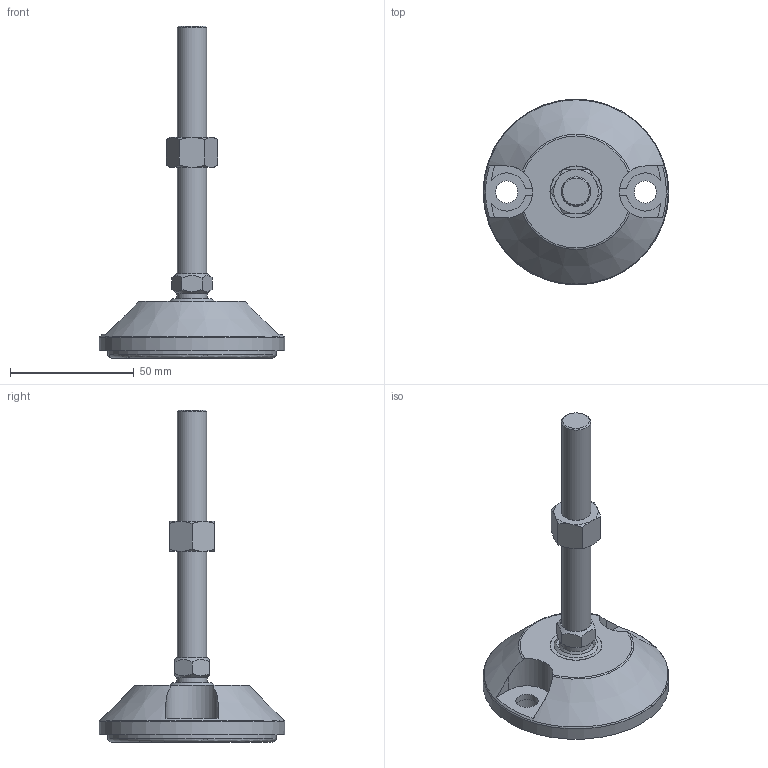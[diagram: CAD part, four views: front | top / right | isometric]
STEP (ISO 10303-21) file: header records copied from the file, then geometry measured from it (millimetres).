
FILE_DESCRIPTION(/* description */ (''),/* implementation_level */ '2;1');
FILE_NAME(/* name */ 'Articulating Anti-slip Levelling Foot - Metal 75mm - M12 - 100mm.step',/* time_stamp */ '2025-10-14T14:07:58+03:00',/* author */ (''),/* organization */ (''),/* preprocessor_version */ 'ST-DEVELOPER v20.1',/* originating_system */ 'Autodesk Translation Framework v14.17.0.0',/* authorisation */ '');
FILE_SCHEMA (('AUTOMOTIVE_DESIGN { 1 0 10303 214 3 1 1 }'));
Length unit declared in the file: millimetre
Products named in the file (8): Articulating Anti-slip Levelling Foot - Metal 75mm - M12 - 100mm; Articulating Levelling Foot Stud - M12 - 100mm; hex nut style 2_am_B18.2.4.2M - Hex nut, Style 2,  M12 x 1.75 --D-N; Articulating Levelling Foot Stud - M12 - 100mm_1; 340-1000A-01_ASM; 340-1001B-01; 340-1003B-01; 340-1002B-01
Assembly tree (7 placements, depth 3):
  Articulating Anti-slip Levelling Foot - Metal 75mm - M12 - 100mm
    Articulating Levelling Foot Stud - M12 - 100mm
      hex nut style 2_am_B18.2.4.2M - Hex nut, Style 2,  M12 x 1.75 --D-N
      Articulating Levelling Foot Stud - M12 - 100mm_1
    340-1000A-01_ASM
      340-1001B-01
      340-1003B-01
      340-1002B-01
Bounding box: 75 x 75 x 134.01 mm (x, y, z)
Volume: 72739.2 mm3; surface area: 34242.9 mm2
Topology: 5 solids, 5 shells, 184 faces, 462 edges, 303 vertices
Faces by surface type: plane 93, cylinder 46, cone 37, torus 4, bspline 3, sphere 1
Full cylindrical faces by diameter (mm): 3.7 x2, 3.996 x1, 7 x2, 9 x2, 10.274 x1, 11 x2, 11.834 x1, 12 x1, 12.166 x1, 15 x2, 15.052 x1, 16 x1, 20 x1, 20.8 x1, 21 x1, 40 x1, 68 x1, 69 x1, 75 x1
Entity records: 6275 total; most frequent: CARTESIAN_POINT 1659, DIRECTION 953, ORIENTED_EDGE 922, EDGE_CURVE 461, AXIS2_PLACEMENT_3D 386, VERTEX_POINT 303, EDGE_LOOP 214, CIRCLE 190
